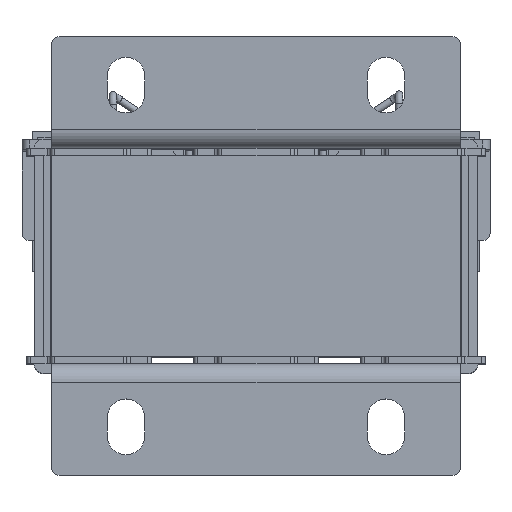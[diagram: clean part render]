
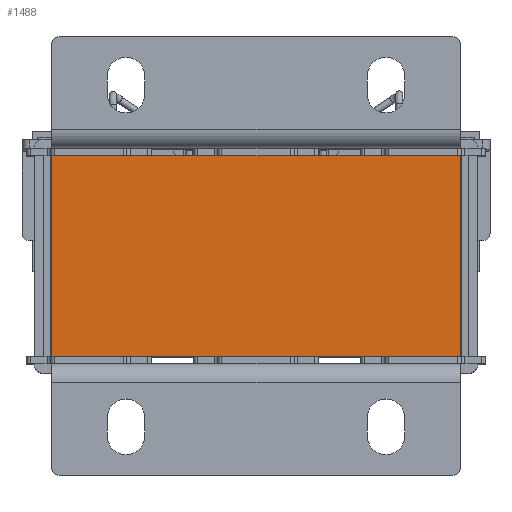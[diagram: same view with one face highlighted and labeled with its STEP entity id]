
A CAD part, top view. The second image highlights one B-rep face of the part: STEP entity #1488.
In plain terms, the highlighted planar face has unit normal (0, 0, 1) as drawn and (0, -1, 0) by its records, which use the part's own axes.
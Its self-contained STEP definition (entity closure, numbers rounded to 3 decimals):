
#240 = DIRECTION ( 'NONE',  ( -1., 0., 0. ) ) ;
#337 = CARTESIAN_POINT ( 'NONE',  ( 55., -61.65, 54. ) ) ;
#469 = PLANE ( 'NONE',  #42958 ) ;
#905 = CARTESIAN_POINT ( 'NONE',  ( -55., -61.65, 54. ) ) ;
#1488 = ADVANCED_FACE ( 'NONE', ( #3808 ), #469, .F. ) ;
#2650 = EDGE_LOOP ( 'NONE', ( #40170, #19823, #2932, #18650 ) ) ;
#2932 = ORIENTED_EDGE ( 'NONE', *, *, #36665, .F. ) ;
#3808 = FACE_OUTER_BOUND ( 'NONE', #2650, .T. ) ;
#4776 = VERTEX_POINT ( 'NONE', #39087 ) ;
#4875 = CARTESIAN_POINT ( 'NONE',  ( -55., -61.65, 0. ) ) ;
#5459 = CARTESIAN_POINT ( 'NONE',  ( 55., -61.65, 0. ) ) ;
#7370 = CARTESIAN_POINT ( 'NONE',  ( 55., -61.65, 54. ) ) ;
#11743 = EDGE_CURVE ( 'NONE', #17536, #31250, #25734, .T. ) ;
#14907 = EDGE_CURVE ( 'NONE', #23301, #17536, #42814, .T. ) ;
#16951 = VECTOR ( 'NONE', #36132, 1000. ) ;
#17536 = VERTEX_POINT ( 'NONE', #4875 ) ;
#18650 = ORIENTED_EDGE ( 'NONE', *, *, #14907, .T. ) ;
#19823 = ORIENTED_EDGE ( 'NONE', *, *, #28666, .F. ) ;
#22171 = DIRECTION ( 'NONE',  ( 1., 0., 0. ) ) ;
#23301 = VERTEX_POINT ( 'NONE', #905 ) ;
#25734 = LINE ( 'NONE', #5459, #34263 ) ;
#25931 = CARTESIAN_POINT ( 'NONE',  ( 55., -61.65, 54. ) ) ;
#26661 = VECTOR ( 'NONE', #35045, 1000. ) ;
#28403 = DIRECTION ( 'NONE',  ( 0., 0., -1. ) ) ;
#28666 = EDGE_CURVE ( 'NONE', #4776, #31250, #29688, .T. ) ;
#29688 = LINE ( 'NONE', #25931, #16951 ) ;
#31250 = VERTEX_POINT ( 'NONE', #38098 ) ;
#34263 = VECTOR ( 'NONE', #22171, 1000. ) ;
#35045 = DIRECTION ( 'NONE',  ( 1., 0., 0. ) ) ;
#35270 = CARTESIAN_POINT ( 'NONE',  ( -55., -61.65, 54. ) ) ;
#36132 = DIRECTION ( 'NONE',  ( 0., 0., -1. ) ) ;
#36665 = EDGE_CURVE ( 'NONE', #23301, #4776, #37935, .T. ) ;
#37935 = LINE ( 'NONE', #337, #26661 ) ;
#38098 = CARTESIAN_POINT ( 'NONE',  ( 55., -61.65, 0. ) ) ;
#39087 = CARTESIAN_POINT ( 'NONE',  ( 55., -61.65, 54. ) ) ;
#40170 = ORIENTED_EDGE ( 'NONE', *, *, #11743, .T. ) ;
#40946 = VECTOR ( 'NONE', #28403, 1000. ) ;
#42814 = LINE ( 'NONE', #35270, #40946 ) ;
#42958 = AXIS2_PLACEMENT_3D ( 'NONE', #7370, #43848, #240 ) ;
#43848 = DIRECTION ( 'NONE',  ( 0., 1., 0. ) ) ;
